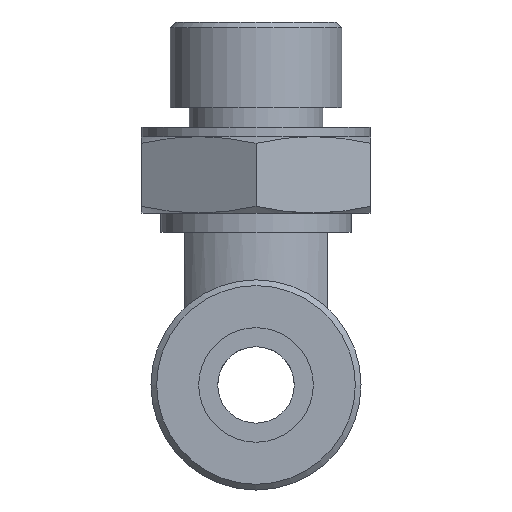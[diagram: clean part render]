
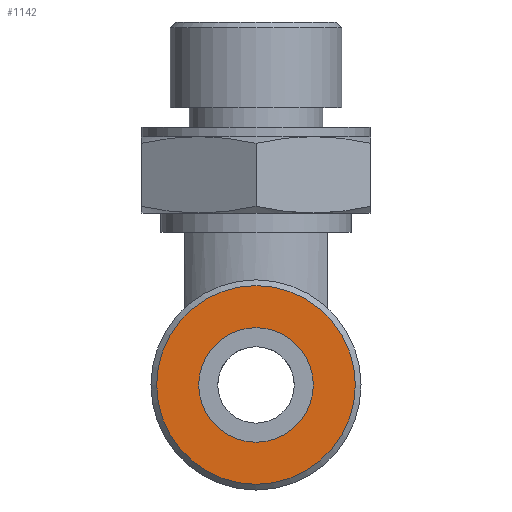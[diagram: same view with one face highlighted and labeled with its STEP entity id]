
A CAD part, front view. The second image highlights one B-rep face of the part: STEP entity #1142.
In plain terms, the highlighted planar face has unit normal (0, -1, 0).
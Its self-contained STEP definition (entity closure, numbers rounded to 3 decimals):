
#85=FACE_BOUND('',#269,.T.);
#111=PLANE('',#1350);
#182=FACE_OUTER_BOUND('',#268,.T.);
#268=EDGE_LOOP('',(#969));
#269=EDGE_LOOP('',(#970));
#437=CIRCLE('',#1330,3.);
#446=CIRCLE('',#1347,5.2);
#543=VERTEX_POINT('',#2064);
#553=VERTEX_POINT('',#2099);
#679=EDGE_CURVE('',#543,#543,#437,.T.);
#697=EDGE_CURVE('',#553,#553,#446,.T.);
#969=ORIENTED_EDGE('',*,*,#697,.F.);
#970=ORIENTED_EDGE('',*,*,#679,.T.);
#1142=ADVANCED_FACE('',(#182,#85),#111,.F.);
#1330=AXIS2_PLACEMENT_3D('',#2065,#1625,#1626);
#1347=AXIS2_PLACEMENT_3D('',#2101,#1668,#1669);
#1350=AXIS2_PLACEMENT_3D('',#2106,#1675,#1676);
#1625=DIRECTION('center_axis',(0.,1.,0.));
#1626=DIRECTION('ref_axis',(1.,0.,0.));
#1668=DIRECTION('center_axis',(0.,1.,0.));
#1669=DIRECTION('ref_axis',(-1.,0.,0.));
#1675=DIRECTION('center_axis',(0.,1.,0.));
#1676=DIRECTION('ref_axis',(0.,0.,1.));
#2064=CARTESIAN_POINT('',(-3.,-21.3,0.));
#2065=CARTESIAN_POINT('Origin',(0.,-21.3,0.));
#2099=CARTESIAN_POINT('',(5.2,-21.3,0.));
#2101=CARTESIAN_POINT('Origin',(0.,-21.3,0.));
#2106=CARTESIAN_POINT('Origin',(0.,-21.3,0.));
